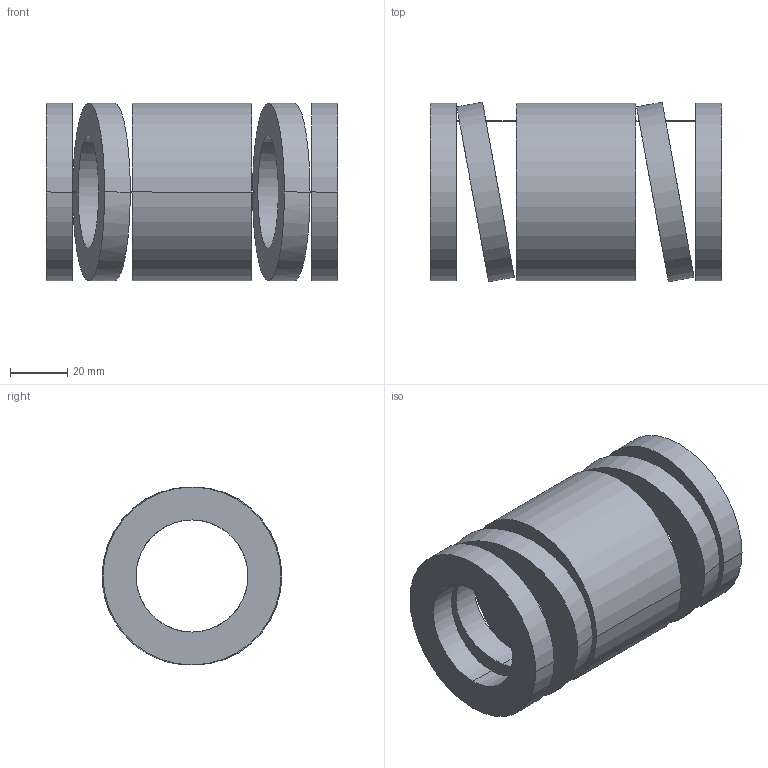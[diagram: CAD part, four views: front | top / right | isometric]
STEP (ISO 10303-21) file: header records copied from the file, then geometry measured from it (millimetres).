
FILE_DESCRIPTION(('CATIA V5 STEP Exchange'),'2;1');
FILE_NAME('C:\Users\Utente\Desktop\IO LAVORO\3D X SITO CF\X SITO\3D files 392B\392-B63-102.stp','2021-08-13T11:59:00+00:00',('none'),('none'),'CATIA Version 5 Release 20 GA (IN-10)','CATIA V5 STEP AP203','none');
FILE_SCHEMA(('CONFIG_CONTROL_DESIGN'));
Length unit declared in the file: millimetre
Products named in the file (1): 392-B63-102
Bounding box: 102 x 62.83 x 62.2 mm (x, y, z)
Volume: 143064.2 mm3; surface area: 43232.3 mm2
Topology: 1 solids, 1 shells, 38 faces, 92 edges, 64 vertices
Faces by surface type: cylinder 28, plane 10
Entity records: 1590 total; most frequent: CARTESIAN_POINT 705, ORIENTED_EDGE 184, DIRECTION 127, EDGE_CURVE 92, VERTEX_POINT 64, AXIS2_PLACEMENT_3D 62, EDGE_LOOP 56, B_SPLINE_CURVE_WITH_KNOTS 41
